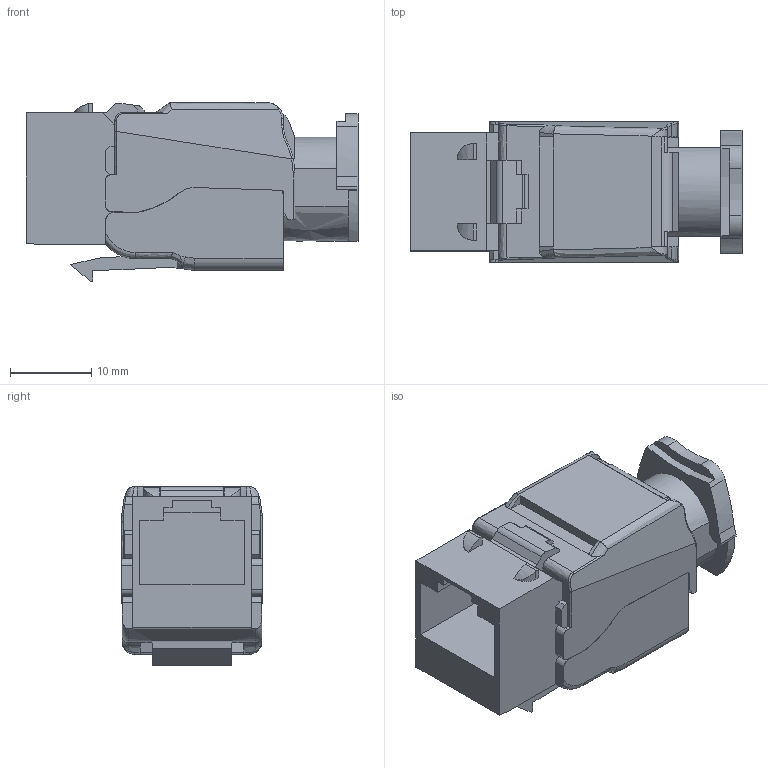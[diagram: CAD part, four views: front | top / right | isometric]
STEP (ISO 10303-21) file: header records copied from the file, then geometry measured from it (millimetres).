
FILE_DESCRIPTION( ('This file contains a STEP AP42 implementation' ,'as created by ZW3D STEP Interface translator.') ,'2;1' );
FILE_NAME( 'TB-036_3013ALKVAS6A_SD.stp' ,'26 330.134527', (''), ('ZWCAD Software Co.'), 'Version 1.0', 'ZW3D to STEP translator', '' );
FILE_SCHEMA(('AUTOMOTIVE_DESIGN'));
Length unit declared in the file: millimetre
Products named in the file (2): 0; TB-036_3013ALKVAS6A_SD
Bounding box: 40.92 x 17.36 x 22 mm (x, y, z)
Volume: 9289.2 mm3; surface area: 4911.4 mm2
Topology: 4 solids, 4 shells, 345 faces, 973 edges, 628 vertices
Faces by surface type: bspline 345
Entity records: 17358 total; most frequent: CARTESIAN_POINT 11190, ORIENTED_EDGE 1942, B_SPLINE_CURVE_WITH_KNOTS 971, EDGE_CURVE 971, VERTEX_POINT 628, EDGE_LOOP 347, FACE_OUTER_BOUND 345, ADVANCED_FACE 345
